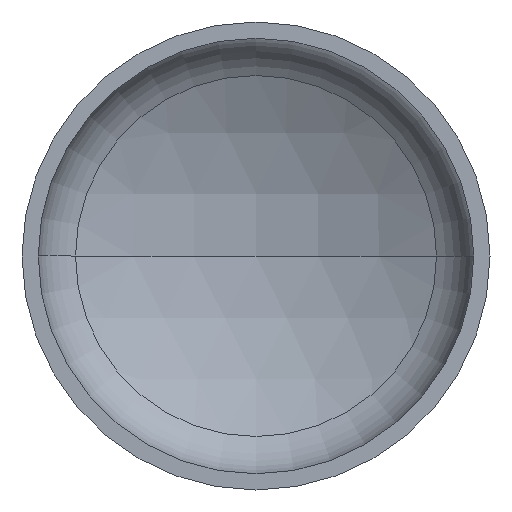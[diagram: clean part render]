
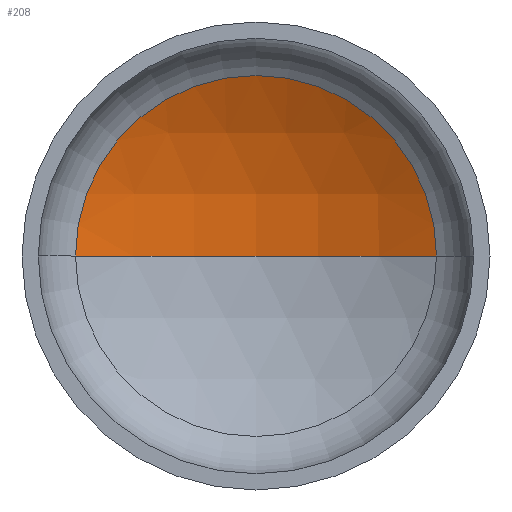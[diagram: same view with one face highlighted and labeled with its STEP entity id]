
A CAD part, front view. The second image highlights one B-rep face of the part: STEP entity #208.
In plain terms, the highlighted spherical face has radius 1040 mm.
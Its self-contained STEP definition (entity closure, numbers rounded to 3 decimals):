
#4 = DIRECTION ( 'NONE',  ( 1., 0., 0. ) ) ;
#8 = DIRECTION ( 'NONE',  ( 0., 0., 1. ) ) ;
#10 = CARTESIAN_POINT ( 'NONE',  ( 0., -595.918, 0. ) ) ;
#25 = AXIS2_PLACEMENT_3D ( 'NONE', #212, #254, #233 ) ;
#33 = ORIENTED_EDGE ( 'NONE', *, *, #73, .T. ) ;
#35 = AXIS2_PLACEMENT_3D ( 'NONE', #10, #8, #4 ) ;
#37 = AXIS2_PLACEMENT_3D ( 'NONE', #291, #219, #213 ) ;
#38 = AXIS2_PLACEMENT_3D ( 'NONE', #174, #195, #197 ) ;
#42 = EDGE_LOOP ( 'NONE', ( #48, #94, #33 ) ) ;
#48 = ORIENTED_EDGE ( 'NONE', *, *, #91, .F. ) ;
#73 = EDGE_CURVE ( 'NONE', #83, #124, #158, .T. ) ;
#74 = EDGE_CURVE ( 'NONE', #177, #83, #407, .T. ) ;
#83 = VERTEX_POINT ( 'NONE', #287 ) ;
#91 = EDGE_CURVE ( 'NONE', #177, #124, #144, .T. ) ;
#94 = ORIENTED_EDGE ( 'NONE', *, *, #74, .T. ) ;
#124 = VERTEX_POINT ( 'NONE', #193 ) ;
#144 = CIRCLE ( 'NONE', #35, 1040. ) ;
#158 = CIRCLE ( 'NONE', #38, 501.429 ) ;
#174 = CARTESIAN_POINT ( 'NONE',  ( 0., 315.219, 0. ) ) ;
#177 = VERTEX_POINT ( 'NONE', #211 ) ;
#193 = CARTESIAN_POINT ( 'NONE',  ( -501.429, 315.219, 0. ) ) ;
#195 = DIRECTION ( 'NONE',  ( 0., -1., 0. ) ) ;
#197 = DIRECTION ( 'NONE',  ( 1., 0., 0. ) ) ;
#208 = ADVANCED_FACE ( 'NONE', ( #270 ), #388, .F. ) ;
#211 = CARTESIAN_POINT ( 'NONE',  ( 0., 444.082, 0. ) ) ;
#212 = CARTESIAN_POINT ( 'NONE',  ( 0., -595.918, 0. ) ) ;
#213 = DIRECTION ( 'NONE',  ( -1., 0., 0. ) ) ;
#219 = DIRECTION ( 'NONE',  ( 0., 0., -1. ) ) ;
#233 = DIRECTION ( 'NONE',  ( -1., 0., 0. ) ) ;
#254 = DIRECTION ( 'NONE',  ( 0., 0., -1. ) ) ;
#270 = FACE_OUTER_BOUND ( 'NONE', #42, .T. ) ;
#287 = CARTESIAN_POINT ( 'NONE',  ( 501.429, 315.219, 0. ) ) ;
#291 = CARTESIAN_POINT ( 'NONE',  ( 0., -595.918, 0. ) ) ;
#388 = SPHERICAL_SURFACE ( 'NONE', #25, 1040. ) ;
#407 = CIRCLE ( 'NONE', #37, 1040. ) ;
